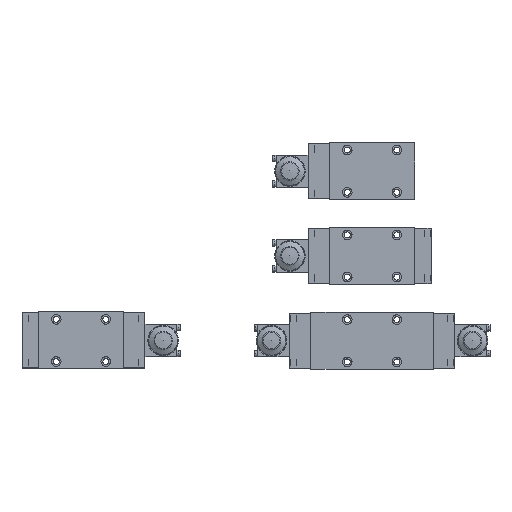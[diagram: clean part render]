
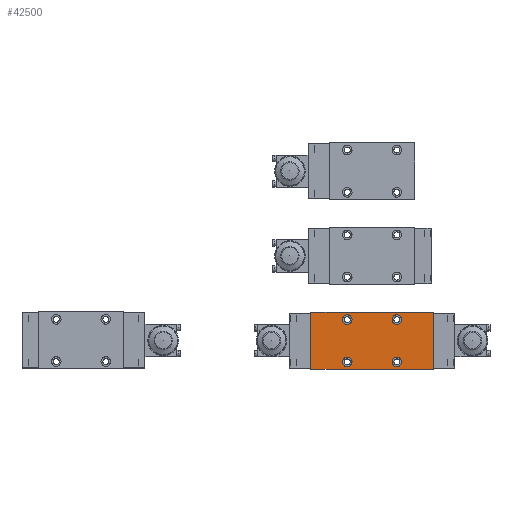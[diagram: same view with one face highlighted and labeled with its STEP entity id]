
A CAD part, top view. The second image highlights one B-rep face of the part: STEP entity #42500.
In plain terms, the highlighted planar face has unit normal (0, 0, 1).
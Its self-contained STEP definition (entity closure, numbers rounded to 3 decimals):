
#42500=ADVANCED_FACE('', (#42510,#42520,#42530,#42540,#42550), #42560, 
.T.);
#119060=AXIS2_PLACEMENT_3D('Ax2Pl3d', #119070, #119080, #119090);
#119180=AXIS2_PLACEMENT_3D('Ax2Pl3d', #119190, #119200, #119210);
#119300=AXIS2_PLACEMENT_3D('Ax2Pl3d', #119310, #119320, #119330);
#119420=AXIS2_PLACEMENT_3D('Ax2Pl3d', #119430, #119440, #119450);
#122220=AXIS2_PLACEMENT_3D('Ax2Pl3d', #122230, #122240, #122250);
#174490=CARTESIAN_POINT('', (0.,0.,62.));
#174500=CARTESIAN_POINT('', (0.,62.,62.));
#174510=CARTESIAN_POINT('', (0.,0.,62.));
#119070=CARTESIAN_POINT('HicPkt', (39.5,8.,62.));
#174610=CARTESIAN_POINT('', (39.5,13.25,62.));
#119190=CARTESIAN_POINT('HicPkt', (39.5,54.,62.));
#174630=CARTESIAN_POINT('', (39.5,59.25,62.));
#119310=CARTESIAN_POINT('HicPkt', (93.5,54.,62.));
#174650=CARTESIAN_POINT('', (93.5,59.25,62.));
#119430=CARTESIAN_POINT('HicPkt', (93.5,8.,62.));
#174670=CARTESIAN_POINT('', (93.5,13.25,62.));
#174690=CARTESIAN_POINT('', (133.,0.,62.));
#174700=CARTESIAN_POINT('', (133.,0.,62.));
#174740=CARTESIAN_POINT('', (0.,62.,62.));
#174750=CARTESIAN_POINT('', (133.,62.,62.));
#174890=CARTESIAN_POINT('', (133.,62.,62.));
#122230=CARTESIAN_POINT('HicPkt', (0.,62.,62.));
#181160=CIRCLE('Circle', #119060, 5.25);
#181180=CIRCLE('Circle', #119180, 5.25);
#181200=CIRCLE('Circle', #119300, 5.25);
#181220=CIRCLE('Circle', #119420, 5.25);
#196900=DIRECTION('', (0.,-1.,0.));
#119080=DIRECTION('Axis', (0.,0.,-1.));
#119090=DIRECTION('RefDirection', (-1.,0.,0.));
#119200=DIRECTION('Axis', (0.,0.,-1.));
#119210=DIRECTION('RefDirection', (-1.,0.,0.));
#119320=DIRECTION('Axis', (0.,0.,-1.));
#119330=DIRECTION('RefDirection', (-1.,0.,0.));
#119440=DIRECTION('Axis', (0.,0.,-1.));
#119450=DIRECTION('RefDirection', (-1.,0.,0.));
#196940=DIRECTION('', (1.,0.,0.));
#196970=DIRECTION('', (-1.,0.,0.));
#197010=DIRECTION('', (0.,1.,0.));
#122240=DIRECTION('Axis', (0.,0.,1.));
#122250=DIRECTION('RefDirection', (1.,0.,0.));
#241380=EDGE_CURVE('', #241390, #241400, #241410, .T.);
#241580=EDGE_CURVE('', #241590, #241590, #181160, .T.);
#241620=EDGE_CURVE('', #241630, #241630, #181180, .T.);
#241660=EDGE_CURVE('', #241670, #241670, #181200, .T.);
#241700=EDGE_CURVE('', #241710, #241710, #181220, .T.);
#241740=EDGE_CURVE('', #241400, #241750, #241760, .T.);
#241820=EDGE_CURVE('', #241830, #241390, #241840, .T.);
#242100=EDGE_CURVE('', #241750, #241830, #242110, .T.);
#298250=EDGE_LOOP('Edge_loop', (#298260,#298270,#298280,#298290));
#298300=EDGE_LOOP('Edge_loop', (#298310));
#298320=EDGE_LOOP('Edge_loop', (#298330));
#298340=EDGE_LOOP('Edge_loop', (#298350));
#298360=EDGE_LOOP('Edge_loop', (#298370));
#42520=FACE_BOUND('', #298300, .T.);
#42530=FACE_BOUND('', #298320, .T.);
#42540=FACE_BOUND('', #298340, .T.);
#42550=FACE_BOUND('', #298360, .T.);
#42510=FACE_OUTER_BOUND('Face_outer_bound', #298250, .T.);
#241410=LINE('Line', #174490, #315640);
#241760=LINE('Line', #174690, #315680);
#241840=LINE('Line', #174740, #315710);
#242110=LINE('Line', #174890, #315750);
#298260=ORIENTED_EDGE('', *, *, #241380, .T.);
#298270=ORIENTED_EDGE('', *, *, #241740, .T.);
#298280=ORIENTED_EDGE('', *, *, #242100, .T.);
#298290=ORIENTED_EDGE('', *, *, #241820, .T.);
#298310=ORIENTED_EDGE('', *, *, #241620, .T.);
#298330=ORIENTED_EDGE('', *, *, #241660, .T.);
#298350=ORIENTED_EDGE('', *, *, #241580, .T.);
#298370=ORIENTED_EDGE('', *, *, #241700, .T.);
#42560=PLANE('Plane', #122220);
#315640=VECTOR('', #196900, 62.);
#315680=VECTOR('', #196940, 133.);
#315710=VECTOR('', #196970, 133.);
#315750=VECTOR('', #197010, 62.);
#241390=VERTEX_POINT('', #174500);
#241400=VERTEX_POINT('', #174510);
#241590=VERTEX_POINT('', #174610);
#241630=VERTEX_POINT('', #174630);
#241670=VERTEX_POINT('', #174650);
#241710=VERTEX_POINT('', #174670);
#241750=VERTEX_POINT('', #174700);
#241830=VERTEX_POINT('', #174750);
